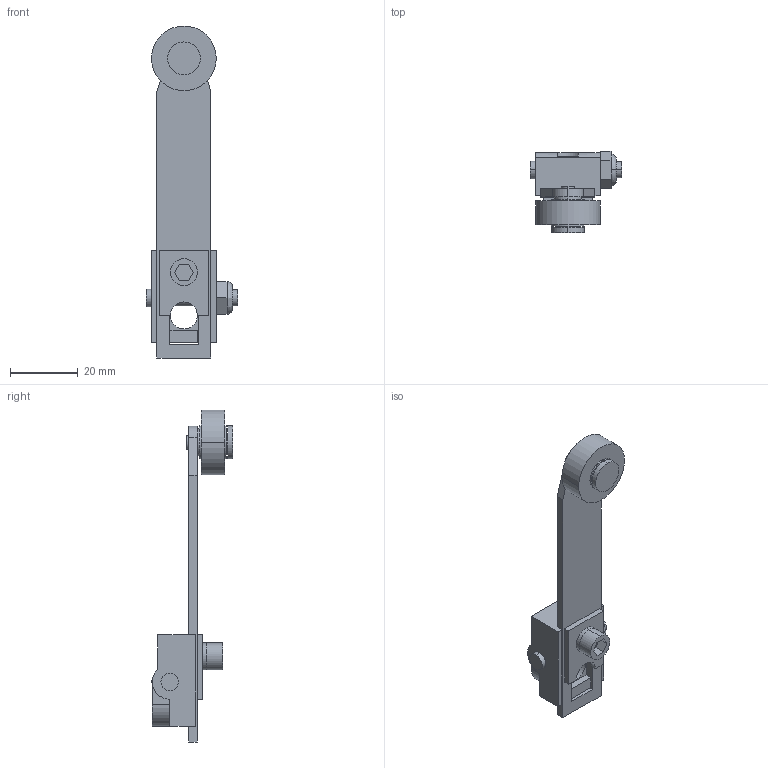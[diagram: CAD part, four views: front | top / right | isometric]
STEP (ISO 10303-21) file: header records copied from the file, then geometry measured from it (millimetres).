
FILE_DESCRIPTION (( 'STEP AP214' ), '1' );
FILE_NAME ('802T-W30.STEP', '2009-07-25T04:44:08', ( 'me' ), ( '' ), 'SwSTEP 2.0', 'SolidWorks 2007', '' );
FILE_SCHEMA (( 'AUTOMOTIVE_DESIGN' ));
Length unit declared in the file: millimetre
Products named in the file (1): 802T-W30
Bounding box: 26.99 x 24.12 x 97.66 mm (x, y, z)
Volume: 10806.2 mm3; surface area: 9313.4 mm2
Topology: 10 solids, 10 shells, 137 faces, 324 edges, 212 vertices
Faces by surface type: plane 83, cylinder 50, bspline 4
Entity records: 5659 total; most frequent: CARTESIAN_POINT 734, DIRECTION 710, ORIENTED_EDGE 648, EDGE_CURVE 324, AXIS2_PLACEMENT_3D 252, VERTEX_POINT 212, VECTOR 206, LINE 206
